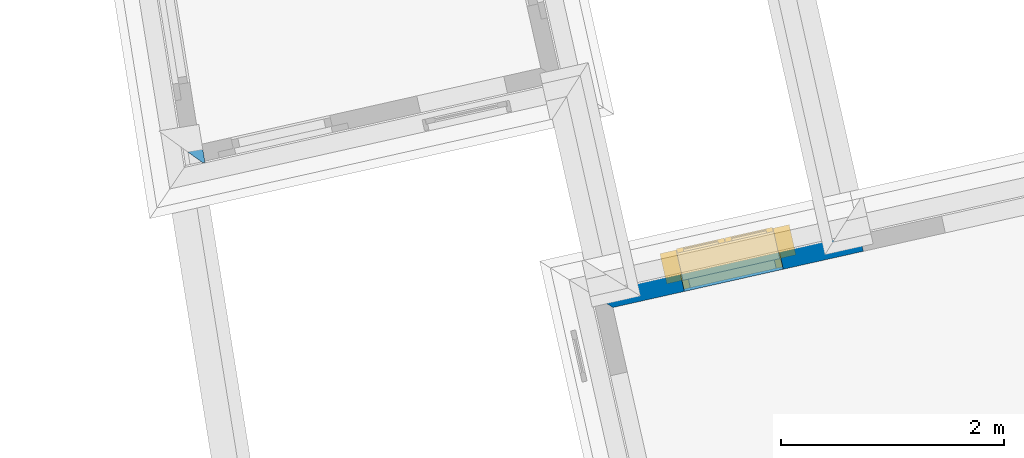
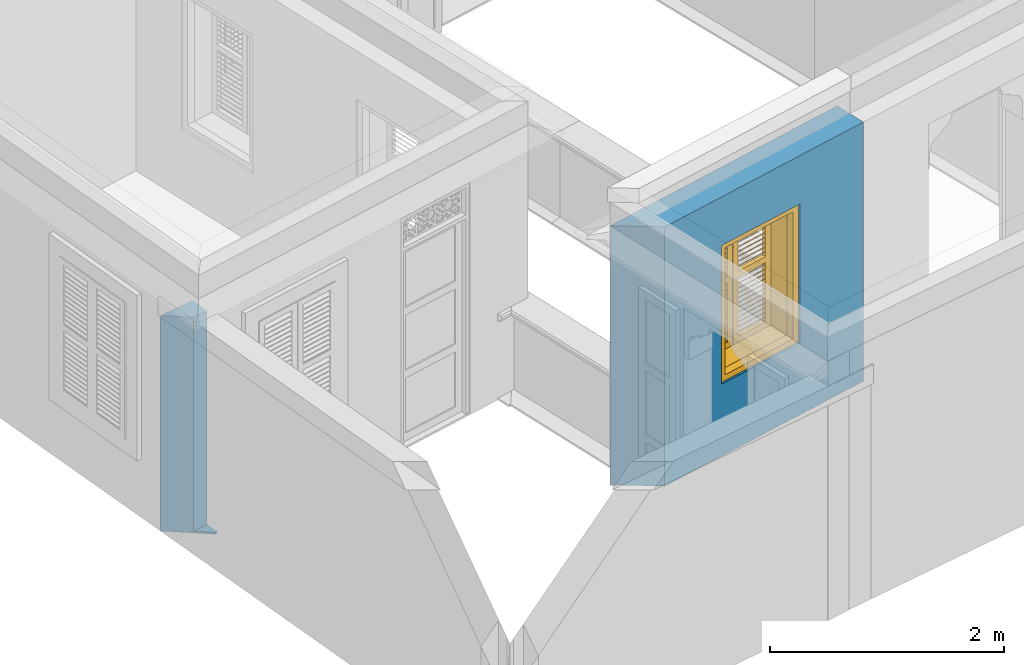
# One storey, part 2 of 15: 2 walls, 1 window, 1 opening.
"""IFC4 building model written with IfcOpenShell, lengths in metres."""

from ifc_helpers import new_model, si_unit, frame, origin, origin_with_axes, place, context, subcontext, project, spatial, polyline, outline, extrude, clip, halfspace, faceted_brep, source, transform, mapped, material, layer, layer_set, layer_usage, material_profile, profile_set, profile_usage, type_object, type_shapes, element, fill, save


model = new_model("IFC4")

# Units and contexts
model_context = context("Model", 3, world=origin_with_axes())
body_context = subcontext(model_context, "Body", "Model", "MODEL_VIEW")
ifc_project = project(units=[si_unit("PLANEANGLEUNIT", "RADIAN"), si_unit("MASSUNIT", "GRAM", prefix="KILO"), si_unit("FORCEUNIT", "NEWTON", prefix="KILO"), si_unit("LENGTHUNIT", "METRE"), si_unit("AREAUNIT", "SQUARE_METRE"), si_unit("VOLUMEUNIT", "CUBIC_METRE")], contexts=[model_context, model_context])

# Site, building, storey
site_placement = place(None, origin_with_axes())
site = spatial("IfcSite", under=ifc_project, at=site_placement, Name="Site plot-10", CompositionType="ELEMENT")
building_placement = place(None, origin_with_axes())
building = spatial("IfcBuilding", under=site, at=building_placement, Name="Building plot-10", CompositionType="ELEMENT")
storey_placement = place(None, frame((0.0, 0.0, 2.7), z_axis=(0.0, 0.0, 1.0), x_axis=(1.0, 0.0, 0.0)))
storey = spatial("IfcBuildingStorey", under=building, at=storey_placement, Name="plot-10 1", CompositionType="ELEMENT", Elevation=2.7)

# Wall, opening, window
ifc_material = material(Name="Masonry")
ifc_layer = layer(ifc_material, 0.33, ventilated=False)
ifc_layer_set = layer_set([ifc_layer], Name="exterior_0.08_0.25")
ifc_layer_usage = layer_usage(ifc_layer_set, "AXIS2", "POSITIVE", -0.25)
wall_type_1 = type_object("IfcWallType", Name="exterior_0.08_0.25", PredefinedType="SOLIDWALL", material=ifc_layer_set)
wall_1_placement = place(storey_placement, frame((-17.7994130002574, 11.3714219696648, 0.0), z_axis=(0.0, 0.0, 1.0), x_axis=(-0.975741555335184, -0.218925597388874, 0.0)))
wall_1 = element("IfcWall", 1, at=wall_1_placement, inside=storey, type_object=wall_type_1, material=ifc_layer_usage, Name="exterior", context=body_context, shape_type="SweptSolid", body=[
    extrude(outline(polyline([(3.68012646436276e-15, 0.0800000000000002), (-7.14563042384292e-15, -0.25), (2.63436903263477, -0.250000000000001), (2.30436903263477, 0.0799999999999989), (3.68012646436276e-15, 0.0800000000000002)])), origin_with_axes(), (0.0, 0.0, 1.0), 2.7),
])
opening_placement = place(wall_1_placement, frame((0.737184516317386, 0.0, 0.75)))
opening = element("IfcOpeningElement", 2, at=opening_placement, cuts=wall_1, Name="My Opening", ObjectType="Opening", context=body_context, shape_type="SweptSolid", body=[
    extrude(outline(polyline([(0.0, -0.270000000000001), (0.91, -0.27), (0.909999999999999, 1.1), (-4.44089209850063e-16, 1.1), (0.0, -0.270000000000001)])), origin_with_axes(), (0.0, 0.0, 1.0), 1.445),
])
window_type = type_object("IfcWindowType", Name="shuttered_shorter", PartitioningType="DOUBLE_PANEL_HORIZONTAL", PredefinedType="NOTDEFINED")
shared_shape = source(origin(), body_context, "Body", "Brep", [
    faceted_brep([(0.393, 0.0, 0.622), (0.074, 0.0, 0.622), (0.074, 0.0, 0.632), (0.393, 0.0, 0.632), (0.074, -0.04, 0.592), (0.393, -0.04, 0.592), (0.393, -0.04, 0.582), (0.074, -0.04, 0.582), (0.517, 0.0, 0.682), (0.836, 0.0, 0.682), (0.836, 0.0, 0.672), (0.517, 0.0, 0.672), (0.517, -0.04, 0.642), (0.836, -0.04, 0.642), (0.836, -0.04, 0.632), (0.517, -0.04, 0.632), (0.517, 0.0, 0.632), (0.836, 0.0, 0.632), (0.836, 0.0, 0.622), (0.517, 0.0, 0.622), (0.517, -0.04, 0.592), (0.836, -0.04, 0.592), (0.836, -0.04, 0.582), (0.517, -0.04, 0.582), (0.517, 0.0, 0.232), (0.836, 0.0, 0.232), (0.836, 0.0, 0.222), (0.517, 0.0, 0.222), (0.517, -0.04, 0.192), (0.836, -0.04, 0.192), (0.836, -0.04, 0.182), (0.517, -0.04, 0.182), (0.517, 0.0, 0.532), (0.836, 0.0, 0.532), (0.836, 0.0, 0.522), (0.517, 0.0, 0.522), (0.517, -0.04, 0.492), (0.836, -0.04, 0.492), (0.836, -0.04, 0.482), (0.517, -0.04, 0.482), (0.517, 0.0, 0.482), (0.836, 0.0, 0.482), (0.836, 0.0, 0.472), (0.517, 0.0, 0.472), (0.517, -0.04, 0.442), (0.836, -0.04, 0.442), (0.836, -0.04, 0.432), (0.517, -0.04, 0.432), (0.517, 0.0, 0.582), (0.836, 0.0, 0.582), (0.836, 0.0, 0.572), (0.517, 0.0, 0.572), (0.517, -0.04, 0.542), (0.836, -0.04, 0.542), (0.836, -0.04, 0.532), (0.517, -0.04, 0.532), (0.517, 0.0, 0.182), (0.836, 0.0, 0.182), (0.836, 0.0, 0.172), (0.517, 0.0, 0.172), (0.517, -0.04, 0.142), (0.836, -0.04, 0.142), (0.836, -0.04, 0.132), (0.517, -0.04, 0.132), (0.517, 0.0, 0.382), (0.836, 0.0, 0.382), (0.836, 0.0, 0.372), (0.517, 0.0, 0.372), (0.517, -0.04, 0.342), (0.836, -0.04, 0.342), (0.836, -0.04, 0.332), (0.517, -0.04, 0.332), (0.517, 0.0, 0.432), (0.836, 0.0, 0.432), (0.836, 0.0, 0.422), (0.517, 0.0, 0.422), (0.517, -0.04, 0.392), (0.836, -0.04, 0.392), (0.836, -0.04, 0.382), (0.517, -0.04, 0.382), (0.517, 0.0, 0.132), (0.836, 0.0, 0.132), (0.836, 0.0, 0.122), (0.517, 0.0, 0.122), (0.517, -0.04, 0.092), (0.836, -0.04, 0.092), (0.836, -0.04, 0.082), (0.517, -0.04, 0.082), (0.517, 0.0, 0.282), (0.836, 0.0, 0.282), (0.836, 0.0, 0.272), (0.517, 0.0, 0.272), (0.517, -0.04, 0.242), (0.836, -0.04, 0.242), (0.836, -0.04, 0.232), (0.517, -0.04, 0.232), (0.517, 0.0, 0.332), (0.836, 0.0, 0.332), (0.836, 0.0, 0.322), (0.517, 0.0, 0.322), (0.517, -0.04, 0.292), (0.836, -0.04, 0.292), (0.836, -0.04, 0.282), (0.517, -0.04, 0.282), (0.517, 0.0, 1.362667), (0.836, 0.0, 1.362667), (0.836, 0.0, 1.352667), (0.517, 0.0, 1.352667), (0.517, -0.04, 1.322667), (0.836, -0.04, 1.322667), (0.836, -0.04, 1.312667), (0.517, -0.04, 1.312667), (0.517, 0.0, 1.312667), (0.836, 0.0, 1.312667), (0.836, 0.0, 1.302667), (0.517, 0.0, 1.302667), (0.517, -0.04, 1.272667), (0.836, -0.04, 1.272667), (0.836, -0.04, 1.262667), (0.517, -0.04, 1.262667), (0.517, 0.0, 0.912667), (0.836, 0.0, 0.912667), (0.836, 0.0, 0.902667), (0.517, 0.0, 0.902667), (0.517, -0.04, 0.872667), (0.836, -0.04, 0.872667), (0.836, -0.04, 0.862667), (0.517, -0.04, 0.862667), (0.517, 0.0, 1.212667), (0.836, 0.0, 1.212667), (0.836, 0.0, 1.202667), (0.517, 0.0, 1.202667), (0.517, -0.04, 1.172667), (0.836, -0.04, 1.172667), (0.836, -0.04, 1.162667), (0.517, -0.04, 1.162667), (0.517, 0.0, 1.162667), (0.836, 0.0, 1.162667), (0.836, 0.0, 1.152667), (0.517, 0.0, 1.152667), (0.517, -0.04, 1.122667), (0.836, -0.04, 1.122667), (0.836, -0.04, 1.112667), (0.517, -0.04, 1.112667), (0.517, 0.0, 1.262667), (0.836, 0.0, 1.262667), (0.836, 0.0, 1.252667), (0.517, 0.0, 1.252667), (0.517, -0.04, 1.222667), (0.836, -0.04, 1.222667), (0.836, -0.04, 1.212667), (0.517, -0.04, 1.212667), (0.517, 0.0, 0.862667), (0.836, 0.0, 0.862667), (0.836, 0.0, 0.852667), (0.517, 0.0, 0.852667), (0.517, -0.04, 0.822667), (0.836, -0.04, 0.822667), (0.836, -0.04, 0.812667), (0.517, -0.04, 0.812667), (0.517, 0.0, 1.062667), (0.836, 0.0, 1.062667), (0.836, 0.0, 1.052667), (0.517, 0.0, 1.052667), (0.517, -0.04, 1.022667), (0.836, -0.04, 1.022667), (0.836, -0.04, 1.012667), (0.517, -0.04, 1.012667), (0.517, 0.0, 1.112667), (0.836, 0.0, 1.112667), (0.836, 0.0, 1.102667), (0.517, 0.0, 1.102667), (0.517, -0.04, 1.072667), (0.836, -0.04, 1.072667), (0.836, -0.04, 1.062667), (0.517, -0.04, 1.062667), (0.517, 0.0, 0.812667), (0.836, 0.0, 0.812667), (0.836, 0.0, 0.802667), (0.517, 0.0, 0.802667), (0.517, -0.04, 0.772667), (0.836, -0.04, 0.772667), (0.836, -0.04, 0.762667), (0.517, -0.04, 0.762667), (0.517, 0.0, 0.962667), (0.836, 0.0, 0.962667), (0.836, 0.0, 0.952667), (0.517, 0.0, 0.952667), (0.517, -0.04, 0.922667), (0.836, -0.04, 0.922667), (0.836, -0.04, 0.912667), (0.517, -0.04, 0.912667), (0.517, 0.0, 1.012667), (0.836, 0.0, 1.012667), (0.836, 0.0, 1.002667), (0.517, 0.0, 1.002667), (0.517, -0.04, 0.972667), (0.836, -0.04, 0.972667), (0.836, -0.04, 0.962667), (0.517, -0.04, 0.962667), (0.074, 0.0, 0.682), (0.393, 0.0, 0.682), (0.393, 0.0, 0.672), (0.074, 0.0, 0.672), (0.074, -0.04, 0.642), (0.393, -0.04, 0.642), (0.393, -0.04, 0.632), (0.074, -0.04, 0.632), (0.074, 0.0, 0.232), (0.393, 0.0, 0.232), (0.393, 0.0, 0.222), (0.074, 0.0, 0.222), (0.074, -0.04, 0.192), (0.393, -0.04, 0.192), (0.393, -0.04, 0.182), (0.074, -0.04, 0.182), (0.074, 0.0, 0.532), (0.393, 0.0, 0.532), (0.393, 0.0, 0.522), (0.074, 0.0, 0.522), (0.074, -0.04, 0.492), (0.393, -0.04, 0.492), (0.393, -0.04, 0.482), (0.074, -0.04, 0.482), (0.074, 0.0, 0.482), (0.393, 0.0, 0.482), (0.393, 0.0, 0.472), (0.074, 0.0, 0.472), (0.074, -0.04, 0.442), (0.393, -0.04, 0.442), (0.393, -0.04, 0.432), (0.074, -0.04, 0.432), (0.074, 0.0, 0.582), (0.393, 0.0, 0.582), (0.393, 0.0, 0.572), (0.074, 0.0, 0.572), (0.074, -0.04, 0.542), (0.393, -0.04, 0.542), (0.393, -0.04, 0.532), (0.074, -0.04, 0.532), (0.074, 0.0, 0.182), (0.393, 0.0, 0.182), (0.393, 0.0, 0.172), (0.074, 0.0, 0.172), (0.074, -0.04, 0.142), (0.393, -0.04, 0.142), (0.393, -0.04, 0.132), (0.074, -0.04, 0.132), (0.074, 0.0, 0.382), (0.393, 0.0, 0.382), (0.393, 0.0, 0.372), (0.074, 0.0, 0.372), (0.074, -0.04, 0.342), (0.393, -0.04, 0.342), (0.393, -0.04, 0.332), (0.074, -0.04, 0.332), (0.074, 0.0, 0.432), (0.393, 0.0, 0.432), (0.393, 0.0, 0.422), (0.074, 0.0, 0.422), (0.074, -0.04, 0.392), (0.393, -0.04, 0.392), (0.393, -0.04, 0.382), (0.074, -0.04, 0.382), (0.074, 0.0, 0.132), (0.393, 0.0, 0.132), (0.393, 0.0, 0.122), (0.074, 0.0, 0.122), (0.074, -0.04, 0.092), (0.393, -0.04, 0.092), (0.393, -0.04, 0.082), (0.074, -0.04, 0.082), (0.074, 0.0, 0.282), (0.393, 0.0, 0.282), (0.393, 0.0, 0.272), (0.074, 0.0, 0.272), (0.074, -0.04, 0.242), (0.393, -0.04, 0.242), (0.393, -0.04, 0.232), (0.074, -0.04, 0.232), (0.074, 0.0, 0.332), (0.393, 0.0, 0.332), (0.393, 0.0, 0.322), (0.074, 0.0, 0.322), (0.074, -0.04, 0.292), (0.393, -0.04, 0.292), (0.393, -0.04, 0.282), (0.074, -0.04, 0.282), (0.074, 0.0, 1.362667), (0.393, 0.0, 1.362667), (0.393, 0.0, 1.352667), (0.074, 0.0, 1.352667), (0.074, -0.04, 1.322667), (0.393, -0.04, 1.322667), (0.393, -0.04, 1.312667), (0.074, -0.04, 1.312667), (0.074, 0.0, 1.312667), (0.393, 0.0, 1.312667), (0.393, 0.0, 1.302667), (0.074, 0.0, 1.302667), (0.074, -0.04, 1.272667), (0.393, -0.04, 1.272667), (0.393, -0.04, 1.262667), (0.074, -0.04, 1.262667), (0.074, 0.0, 0.912667), (0.393, 0.0, 0.912667), (0.393, 0.0, 0.902667), (0.074, 0.0, 0.902667), (0.074, -0.04, 0.872667), (0.393, -0.04, 0.872667), (0.393, -0.04, 0.862667), (0.074, -0.04, 0.862667), (0.074, 0.0, 1.212667), (0.393, 0.0, 1.212667), (0.393, 0.0, 1.202667), (0.074, 0.0, 1.202667), (0.074, -0.04, 1.172667), (0.393, -0.04, 1.172667), (0.393, -0.04, 1.162667), (0.074, -0.04, 1.162667), (0.074, 0.0, 1.162667), (0.393, 0.0, 1.162667), (0.393, 0.0, 1.152667), (0.074, 0.0, 1.152667), (0.074, -0.04, 1.122667), (0.393, -0.04, 1.122667), (0.393, -0.04, 1.112667), (0.074, -0.04, 1.112667), (0.074, 0.0, 1.262667), (0.393, 0.0, 1.262667), (0.393, 0.0, 1.252667), (0.074, 0.0, 1.252667), (0.074, -0.04, 1.222667), (0.393, -0.04, 1.222667), (0.393, -0.04, 1.212667), (0.074, -0.04, 1.212667), (0.074, 0.0, 0.862667), (0.393, 0.0, 0.862667), (0.393, 0.0, 0.852667), (0.074, 0.0, 0.852667), (0.074, -0.04, 0.822667), (0.393, -0.04, 0.822667), (0.393, -0.04, 0.812667), (0.074, -0.04, 0.812667), (0.074, 0.0, 1.062667), (0.393, 0.0, 1.062667), (0.393, 0.0, 1.052667), (0.074, 0.0, 1.052667), (0.074, -0.04, 1.022667), (0.393, -0.04, 1.022667), (0.393, -0.04, 1.012667), (0.074, -0.04, 1.012667), (0.074, 0.0, 1.112667), (0.393, 0.0, 1.112667), (0.393, 0.0, 1.102667), (0.074, 0.0, 1.102667), (0.074, -0.04, 1.072667), (0.393, -0.04, 1.072667), (0.393, -0.04, 1.062667), (0.074, -0.04, 1.062667), (0.074, 0.0, 0.812667), (0.393, 0.0, 0.812667), (0.393, 0.0, 0.802667), (0.074, 0.0, 0.802667), (0.074, -0.04, 0.772667), (0.393, -0.04, 0.772667), (0.393, -0.04, 0.762667), (0.074, -0.04, 0.762667), (0.074, 0.0, 0.962667), (0.393, 0.0, 0.962667), (0.393, 0.0, 0.952667), (0.074, 0.0, 0.952667), (0.074, -0.04, 0.922667), (0.393, -0.04, 0.922667), (0.393, -0.04, 0.912667), (0.074, -0.04, 0.912667), (0.074, 0.0, 1.012667), (0.393, 0.0, 1.012667), (0.393, 0.0, 1.002667), (0.074, 0.0, 1.002667), (0.074, -0.04, 0.972667), (0.393, -0.04, 0.972667), (0.393, -0.04, 0.962667), (0.074, -0.04, 0.962667), (0.517, -0.04, 0.072), (0.457, -0.04, 0.012), (0.896, -0.04, 0.012), (0.836, -0.04, 0.072), (0.457, -0.04, 0.692667), (0.517, -0.04, 0.692667), (0.457, 0.0, 0.012), (0.896, 0.0, 0.012), (0.836, -0.04, 0.692667), (0.896, -0.04, 0.692667), (0.836, 0.0, 0.072), (0.517, 0.0, 0.072), (0.457, 0.0, 0.692667), (0.517, 0.0, 0.692667), (0.517, -0.04, 0.752666), (0.457, -0.04, 0.752666), (0.896, 0.0, 0.692667), (0.836, 0.0, 0.692667), (0.836, -0.04, 0.752666), (0.896, -0.04, 0.752666), (0.457, 0.0, 0.752666), (0.457, -0.04, 1.433333), (0.517, -0.04, 1.373333), (0.896, 0.0, 0.752666), (0.836, -0.04, 1.373333), (0.896, -0.04, 1.433333), (0.457, 0.0, 1.433333), (0.517, 0.0, 0.752666), (0.836, 0.0, 0.752666), (0.517, 0.0, 1.373333), (0.896, 0.0, 1.433333), (0.836, 0.0, 1.373333), (0.074, -0.04, 0.072), (0.014, -0.04, 0.012), (0.453, -0.04, 0.012), (0.393, -0.04, 0.072), (0.014, -0.04, 0.692667), (0.074, -0.04, 0.692667), (0.014, 0.0, 0.012), (0.453, 0.0, 0.012), (0.393, -0.04, 0.692667), (0.453, -0.04, 0.692667), (0.393, 0.0, 0.072), (0.074, 0.0, 0.072), (0.014, 0.0, 0.692667), (0.074, 0.0, 0.692667), (0.074, -0.04, 0.752666), (0.014, -0.04, 0.752666), (0.453, 0.0, 0.692667), (0.393, 0.0, 0.692667), (0.393, -0.04, 0.752666), (0.453, -0.04, 0.752666), (0.014, 0.0, 0.752666), (0.014, -0.04, 1.433333), (0.074, -0.04, 1.373333), (0.453, 0.0, 0.752666), (0.393, -0.04, 1.373333), (0.453, -0.04, 1.433333), (0.014, 0.0, 1.433333), (0.074, 0.0, 0.752666), (0.393, 0.0, 0.752666), (0.074, 0.0, 1.373333), (0.453, 0.0, 1.433333), (0.393, 0.0, 1.373333), (0.0, 0.33, 1.445), (0.91, 0.33, 1.445), (0.85, 0.33, 1.385), (0.06, 0.33, 1.385), (0.91, 0.25, 1.445), (0.0, 0.25, 1.445), (0.91, 0.25, 1.445), (0.85, 0.33, 0.06), (0.91, 0.33, 0.0), (0.85, 0.25, 1.385), (0.06, 0.25, 1.385), (0.0, 0.33, 0.0), (0.06, 0.33, 0.06), (0.0, 0.25, 0.0), (0.91, 0.25, 0.0), (0.85, 0.25, 0.06), (0.06, 0.25, 0.06), (1.05, 0.25, 1.585), (-0.14, 0.25, 1.585), (-0.14, -0.03, 1.585), (1.05, -0.03, 1.585), (0.9, -0.03, 1.435), (0.01, -0.03, 1.435), (0.01, 0.25, 1.435), (0.9, 0.25, 1.435), (0.9, 0.25, 0.01), (0.9, -0.03, 0.01), (1.05, -0.03, -0.14), (1.05, 0.25, -0.14), (0.01, -0.03, 0.01), (0.01, 0.25, 0.01), (-0.14, -0.03, -0.14), (-0.14, 0.25, -0.14)], [[[0, 1, 2, 3]], [[4, 5, 3, 2]], [[5, 6, 0, 3]], [[1, 0, 6, 7]], [[2, 1, 7, 4]], [[5, 4, 7, 6]], [[8, 9, 10, 11]], [[12, 13, 9, 8]], [[13, 14, 10, 9]], [[14, 15, 11, 10]], [[15, 12, 8, 11]], [[13, 12, 15, 14]], [[16, 17, 18, 19]], [[20, 21, 17, 16]], [[21, 22, 18, 17]], [[22, 23, 19, 18]], [[23, 20, 16, 19]], [[21, 20, 23, 22]], [[24, 25, 26, 27]], [[28, 29, 25, 24]], [[29, 30, 26, 25]], [[30, 31, 27, 26]], [[31, 28, 24, 27]], [[29, 28, 31, 30]], [[32, 33, 34, 35]], [[36, 37, 33, 32]], [[37, 38, 34, 33]], [[38, 39, 35, 34]], [[39, 36, 32, 35]], [[37, 36, 39, 38]], [[40, 41, 42, 43]], [[44, 45, 41, 40]], [[45, 46, 42, 41]], [[46, 47, 43, 42]], [[47, 44, 40, 43]], [[45, 44, 47, 46]], [[48, 49, 50, 51]], [[52, 53, 49, 48]], [[53, 54, 50, 49]], [[54, 55, 51, 50]], [[55, 52, 48, 51]], [[53, 52, 55, 54]], [[56, 57, 58, 59]], [[60, 61, 57, 56]], [[61, 62, 58, 57]], [[62, 63, 59, 58]], [[63, 60, 56, 59]], [[61, 60, 63, 62]], [[64, 65, 66, 67]], [[68, 69, 65, 64]], [[69, 70, 66, 65]], [[70, 71, 67, 66]], [[71, 68, 64, 67]], [[69, 68, 71, 70]], [[72, 73, 74, 75]], [[76, 77, 73, 72]], [[77, 78, 74, 73]], [[78, 79, 75, 74]], [[79, 76, 72, 75]], [[77, 76, 79, 78]], [[80, 81, 82, 83]], [[84, 85, 81, 80]], [[85, 86, 82, 81]], [[86, 87, 83, 82]], [[87, 84, 80, 83]], [[85, 84, 87, 86]], [[88, 89, 90, 91]], [[92, 93, 89, 88]], [[93, 94, 90, 89]], [[94, 95, 91, 90]], [[95, 92, 88, 91]], [[93, 92, 95, 94]], [[96, 97, 98, 99]], [[100, 101, 97, 96]], [[101, 102, 98, 97]], [[102, 103, 99, 98]], [[103, 100, 96, 99]], [[101, 100, 103, 102]], [[104, 105, 106, 107]], [[108, 109, 105, 104]], [[109, 110, 106, 105]], [[110, 111, 107, 106]], [[111, 108, 104, 107]], [[109, 108, 111, 110]], [[112, 113, 114, 115]], [[116, 117, 113, 112]], [[117, 118, 114, 113]], [[118, 119, 115, 114]], [[119, 116, 112, 115]], [[117, 116, 119, 118]], [[120, 121, 122, 123]], [[124, 125, 121, 120]], [[125, 126, 122, 121]], [[126, 127, 123, 122]], [[127, 124, 120, 123]], [[125, 124, 127, 126]], [[128, 129, 130, 131]], [[132, 133, 129, 128]], [[133, 134, 130, 129]], [[134, 135, 131, 130]], [[135, 132, 128, 131]], [[133, 132, 135, 134]], [[136, 137, 138, 139]], [[140, 141, 137, 136]], [[141, 142, 138, 137]], [[142, 143, 139, 138]], [[139, 143, 140, 136]], [[141, 140, 143, 142]], [[144, 145, 146, 147]], [[148, 149, 145, 144]], [[149, 150, 146, 145]], [[150, 151, 147, 146]], [[151, 148, 144, 147]], [[149, 148, 151, 150]], [[152, 153, 154, 155]], [[156, 157, 153, 152]], [[157, 158, 154, 153]], [[158, 159, 155, 154]], [[159, 156, 152, 155]], [[157, 156, 159, 158]], [[160, 161, 162, 163]], [[164, 165, 161, 160]], [[165, 166, 162, 161]], [[166, 167, 163, 162]], [[167, 164, 160, 163]], [[165, 164, 167, 166]], [[168, 169, 170, 171]], [[172, 173, 169, 168]], [[173, 174, 170, 169]], [[174, 175, 171, 170]], [[175, 172, 168, 171]], [[173, 172, 175, 174]], [[176, 177, 178, 179]], [[180, 181, 177, 176]], [[181, 182, 178, 177]], [[182, 183, 179, 178]], [[183, 180, 176, 179]], [[181, 180, 183, 182]], [[184, 185, 186, 187]], [[188, 189, 185, 184]], [[189, 190, 186, 185]], [[190, 191, 187, 186]], [[191, 188, 184, 187]], [[189, 188, 191, 190]], [[192, 193, 194, 195]], [[196, 197, 193, 192]], [[197, 198, 194, 193]], [[198, 199, 195, 194]], [[199, 196, 192, 195]], [[197, 196, 199, 198]], [[200, 201, 202, 203]], [[204, 205, 201, 200]], [[205, 206, 202, 201]], [[206, 207, 203, 202]], [[207, 204, 200, 203]], [[205, 204, 207, 206]], [[208, 209, 210, 211]], [[212, 213, 209, 208]], [[213, 214, 210, 209]], [[214, 215, 211, 210]], [[215, 212, 208, 211]], [[213, 212, 215, 214]], [[216, 217, 218, 219]], [[220, 221, 217, 216]], [[221, 222, 218, 217]], [[222, 223, 219, 218]], [[223, 220, 216, 219]], [[221, 220, 223, 222]], [[224, 225, 226, 227]], [[228, 229, 225, 224]], [[229, 230, 226, 225]], [[230, 231, 227, 226]], [[231, 228, 224, 227]], [[229, 228, 231, 230]], [[232, 233, 234, 235]], [[236, 237, 233, 232]], [[237, 238, 234, 233]], [[238, 239, 235, 234]], [[239, 236, 232, 235]], [[237, 236, 239, 238]], [[240, 241, 242, 243]], [[244, 245, 241, 240]], [[245, 246, 242, 241]], [[246, 247, 243, 242]], [[247, 244, 240, 243]], [[245, 244, 247, 246]], [[248, 249, 250, 251]], [[252, 253, 249, 248]], [[253, 254, 250, 249]], [[254, 255, 251, 250]], [[255, 252, 248, 251]], [[253, 252, 255, 254]], [[256, 257, 258, 259]], [[260, 261, 257, 256]], [[261, 262, 258, 257]], [[262, 263, 259, 258]], [[263, 260, 256, 259]], [[261, 260, 263, 262]], [[264, 265, 266, 267]], [[268, 269, 265, 264]], [[269, 270, 266, 265]], [[270, 271, 267, 266]], [[271, 268, 264, 267]], [[269, 268, 271, 270]], [[272, 273, 274, 275]], [[276, 277, 273, 272]], [[277, 278, 274, 273]], [[278, 279, 275, 274]], [[279, 276, 272, 275]], [[277, 276, 279, 278]], [[280, 281, 282, 283]], [[284, 285, 281, 280]], [[285, 286, 282, 281]], [[286, 287, 283, 282]], [[287, 284, 280, 283]], [[285, 284, 287, 286]], [[288, 289, 290, 291]], [[292, 293, 289, 288]], [[293, 294, 290, 289]], [[294, 295, 291, 290]], [[295, 292, 288, 291]], [[293, 292, 295, 294]], [[296, 297, 298, 299]], [[300, 301, 297, 296]], [[301, 302, 298, 297]], [[302, 303, 299, 298]], [[303, 300, 296, 299]], [[301, 300, 303, 302]], [[304, 305, 306, 307]], [[308, 309, 305, 304]], [[309, 310, 306, 305]], [[310, 311, 307, 306]], [[311, 308, 304, 307]], [[309, 308, 311, 310]], [[312, 313, 314, 315]], [[316, 317, 313, 312]], [[317, 318, 314, 313]], [[318, 319, 315, 314]], [[319, 316, 312, 315]], [[317, 316, 319, 318]], [[320, 321, 322, 323]], [[324, 325, 321, 320]], [[325, 326, 322, 321]], [[326, 327, 323, 322]], [[327, 324, 320, 323]], [[325, 324, 327, 326]], [[328, 329, 330, 331]], [[332, 333, 329, 328]], [[333, 334, 330, 329]], [[334, 335, 331, 330]], [[335, 332, 328, 331]], [[333, 332, 335, 334]], [[336, 337, 338, 339]], [[340, 341, 337, 336]], [[341, 342, 338, 337]], [[342, 343, 339, 338]], [[343, 340, 336, 339]], [[341, 340, 343, 342]], [[344, 345, 346, 347]], [[348, 349, 345, 344]], [[349, 350, 346, 345]], [[350, 351, 347, 346]], [[351, 348, 344, 347]], [[349, 348, 351, 350]], [[352, 353, 354, 355]], [[356, 357, 353, 352]], [[357, 358, 354, 353]], [[358, 359, 355, 354]], [[359, 356, 352, 355]], [[357, 356, 359, 358]], [[360, 361, 362, 363]], [[364, 365, 361, 360]], [[365, 366, 362, 361]], [[366, 367, 363, 362]], [[367, 364, 360, 363]], [[365, 364, 367, 366]], [[368, 369, 370, 371]], [[372, 373, 369, 368]], [[373, 374, 370, 369]], [[374, 375, 371, 370]], [[375, 372, 368, 371]], [[373, 372, 375, 374]], [[376, 377, 378, 379]], [[380, 381, 377, 376]], [[381, 382, 378, 377]], [[382, 383, 379, 378]], [[383, 380, 376, 379]], [[381, 380, 383, 382]], [[384, 385, 386, 387]], [[388, 385, 384, 389]], [[390, 391, 386, 385]], [[392, 387, 386, 393]], [[384, 387, 394, 395]], [[390, 385, 388, 396]], [[389, 384, 395, 397]], [[389, 398, 399, 388]], [[390, 395, 394, 391]], [[400, 393, 386, 391]], [[387, 392, 401, 394]], [[402, 392, 393, 403]], [[396, 388, 399, 404]], [[390, 396, 397, 395]], [[392, 389, 397, 401]], [[398, 389, 392, 402]], [[405, 399, 398, 406]], [[394, 401, 400, 391]], [[407, 403, 393, 400]], [[408, 402, 403, 409]], [[404, 399, 405, 410]], [[411, 397, 396, 404]], [[397, 411, 412, 401]], [[398, 402, 412, 411]], [[406, 398, 411, 413]], [[405, 406, 408, 409]], [[401, 412, 407, 400]], [[414, 409, 403, 407]], [[402, 408, 415, 412]], [[405, 409, 414, 410]], [[404, 410, 413, 411]], [[408, 406, 413, 415]], [[412, 415, 414, 407]], [[413, 410, 414, 415]], [[416, 417, 418, 419]], [[420, 417, 416, 421]], [[422, 423, 418, 417]], [[424, 419, 418, 425]], [[416, 419, 426, 427]], [[422, 417, 420, 428]], [[421, 416, 427, 429]], [[421, 430, 431, 420]], [[422, 427, 426, 423]], [[432, 425, 418, 423]], [[419, 424, 433, 426]], [[434, 424, 425, 435]], [[428, 420, 431, 436]], [[422, 428, 429, 427]], [[424, 421, 429, 433]], [[430, 421, 424, 434]], [[437, 431, 430, 438]], [[426, 433, 432, 423]], [[439, 435, 425, 432]], [[440, 434, 435, 441]], [[436, 431, 437, 442]], [[443, 429, 428, 436]], [[429, 443, 444, 433]], [[430, 434, 444, 443]], [[438, 430, 443, 445]], [[437, 438, 440, 441]], [[433, 444, 439, 432]], [[446, 441, 435, 439]], [[434, 440, 447, 444]], [[437, 441, 446, 442]], [[436, 442, 445, 443]], [[440, 438, 445, 447]], [[444, 447, 446, 439]], [[445, 442, 446, 447]], [[448, 449, 450, 451]], [[452, 449, 448]], [[448, 453, 454]], [[448, 454, 452]], [[455, 450, 449, 456]], [[451, 450, 457, 458]], [[459, 448, 451, 460]], [[448, 459, 461, 453]], [[454, 453, 458, 457]], [[462, 452, 454]], [[454, 457, 463]], [[454, 463, 462]], [[456, 449, 452, 462]], [[450, 455, 463, 457]], [[456, 459, 460, 455]], [[460, 451, 458, 464]], [[459, 456, 462, 461]], [[464, 458, 453, 461]], [[461, 462, 463, 464]], [[455, 460, 464, 463]], [[465, 466, 467, 468]], [[469, 470, 471, 472]], [[473, 474, 469, 472]], [[465, 468, 475, 476]], [[470, 477, 478, 471]], [[474, 473, 478, 477]], [[474, 477, 479, 475]], [[470, 467, 479, 477]], [[470, 469, 468, 467]], [[474, 475, 468, 469]], [[471, 478, 480, 466]], [[473, 472, 465, 476]], [[473, 476, 480, 478]], [[466, 465, 472, 471]], [[480, 476, 475, 479]], [[480, 479, 467, 466]]]),
])
type_shapes(window_type, [shared_shape])
window_placement = place(storey_placement, frame((-18.5778244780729, 11.4734836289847, 0.75), z_axis=(0.0, 0.0, 1.0), x_axis=(-0.887924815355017, -0.199222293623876, 0.0)))
window = element("IfcWindow", 3, at=window_placement, inside=storey, type_object=window_type, Name="circulation sahn window", OverallHeight=1.445, OverallWidth=0.91, context=body_context, shape_type="MappedRepresentation", body=[
    mapped(shared_shape, transform((0.0, 0.0, 0.0), scale=1.0)),
])
fill(opening, window)

# Wall
ifc_material_profile = material_profile(None, outline(polyline([(0.25, 0.0), (0.25, 2.245), (0.05, 2.245), (0.05, 0.02), (-0.08, 0.02), (-0.08, 0.0), (0.25, 0.0)])))
ifc_profile_set = profile_set([ifc_material_profile])
ifc_profile_usage = profile_usage(ifc_profile_set)
wall_type_2 = type_object("IfcWallType", Name="parapet street_0", PredefinedType="PARAPET", material=ifc_profile_set)
wall_2_placement = place(storey_placement, frame((-24.7898709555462, 11.9953694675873, 0.0), z_axis=(0.987304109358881, 0.158841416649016, 0.0), x_axis=(-0.158841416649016, 0.987304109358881, 0.0)))
element("IfcWall", 4, at=wall_2_placement, inside=storey, type_object=wall_type_2, material=ifc_profile_usage, Name="parapet street_0", context=body_context, shape_type="Clipping", body=[
    clip(clip(extrude(outline(polyline([(0.25, 0.0), (0.25, 2.245), (0.05, 2.245), (0.05, 0.02), (-0.08, 0.02), (-0.08, 0.0), (0.25, 0.0)])), origin_with_axes(), (0.0, 0.0, 1.0), 2.1), halfspace(frame((0.0, 0.0, 1.1), z_axis=(8.26946079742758e-16, 0.0, -1.0), x_axis=(0.0, 1.0, 0.0)), True)), halfspace(frame((0.0, 0.0, 1.0), z_axis=(-0.707106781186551, 0.0, -0.707106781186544), x_axis=(0.0, 1.0, 0.0)), False)),
])

save(model, "model.ifc")
